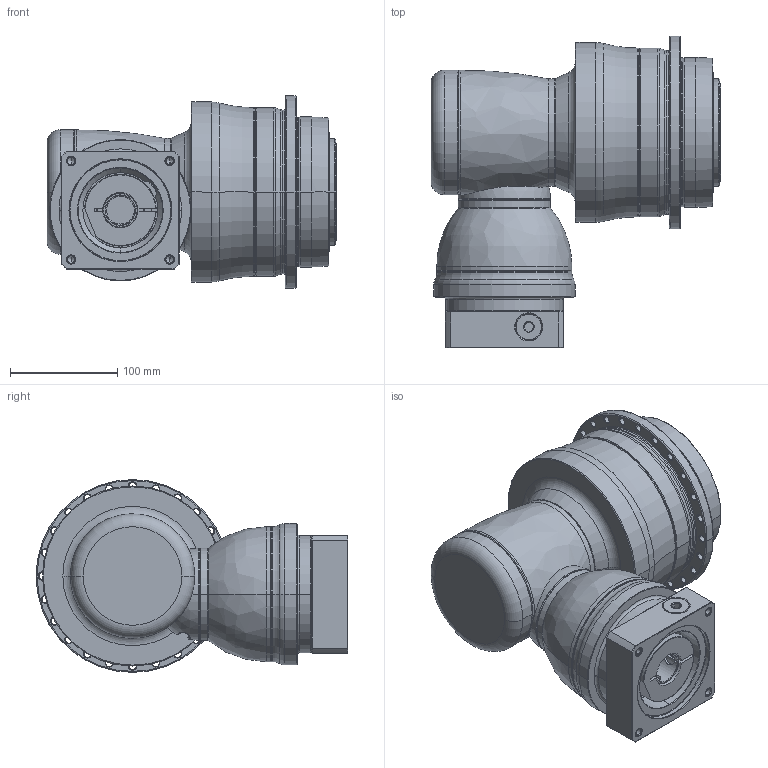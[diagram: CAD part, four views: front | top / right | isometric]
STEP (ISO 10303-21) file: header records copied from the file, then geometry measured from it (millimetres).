
FILE_DESCRIPTION((''),'2;1');
FILE_NAME('APK140_3ST_28-P0409610201_ASM','2018-07-17T',('D00080'),(''),'PRO/ENGINEER BY PARAMETRIC TECHNOLOGY CORPORATION, 2008170','PRO/ENGINEER BY PARAMETRIC TECHNOLOGY CORPORATION, 2008170','');
FILE_SCHEMA(('CONFIG_CONTROL_DESIGN'));
Length unit declared in the file: millimetre
Products named in the file (13): P1008400002; P1832500001; P0278501003; P0359501103; P1211500001; P1315400001; P1007401001; P1318410201; P0503600010; P0129452001; P0409610201; 21711418017; APK140_3ST_28-P0409610201_ASM
Assembly tree (12 placements, depth 2):
  APK140_3ST_28-P0409610201_ASM
    P1008400002
    P1832500001
    P0278501003
    P0359501103
    P1211500001
    P1315400001
    P1007401001
    P1318410201
    P0503600010
    P0129452001
    P0409610201
    21711418017
Bounding box: 270.3 x 291 x 180 mm (x, y, z)
Volume: 5053380.7 mm3; surface area: 552355.3 mm2
Topology: 13 solids, 38 shells, 782 faces, 1778 edges, 1069 vertices
Faces by surface type: cylinder 316, cone 219, plane 132, torus 83, bspline 30, sphere 2
Entity records: 24623 total; most frequent: CARTESIAN_POINT 6449, DIRECTION 4176, ORIENTED_EDGE 3366, AXIS2_PLACEMENT_3D 1790, EDGE_CURVE 1734, VERTEX_POINT 1069, CIRCLE 1003, EDGE_LOOP 935
